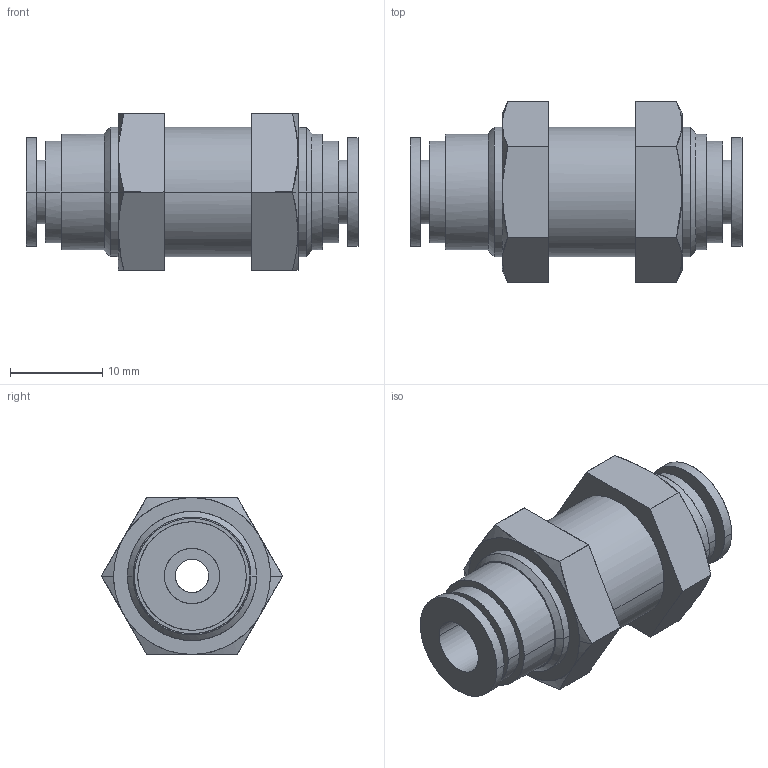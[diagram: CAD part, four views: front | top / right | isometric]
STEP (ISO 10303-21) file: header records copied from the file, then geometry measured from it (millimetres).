
FILE_DESCRIPTION(/* description */ (''),/* implementation_level */ '2;1');
FILE_NAME(/* name */ '11.air-assist#11.1#MSBUL6',/* time_stamp */ '2014-12-01T20:19:37+01:00',/* author */ (''),/* organization */ (''),/* preprocessor_version */ 'ST-DEVELOPER v14',/* originating_system */ '',/* authorisation */ '');
FILE_SCHEMA (('AUTOMOTIVE_DESIGN'));
Length unit declared in the file: millimetre
Products named in the file (2): Document; MSBUL6
Assembly tree (1 placements, depth 2):
  Document
    MSBUL6
Bounding box: 36 x 19.63 x 17 mm (x, y, z)
Surface area: 4013.8 mm2 (no closed solid volume)
Topology: 0 solids, 84 shells, 84 faces, 252 edges, 252 vertices
Faces by surface type: bspline 56, plane 28
Entity records: 6467 total; most frequent: CARTESIAN_POINT 3316, B_SPLINE_CURVE_WITH_KNOTS 300, ORIENTED_EDGE 252, PCURVE 252, DEFINITIONAL_REPRESENTATION 252, SURFACE_CURVE 252, EDGE_CURVE 252, VERTEX_POINT 252
